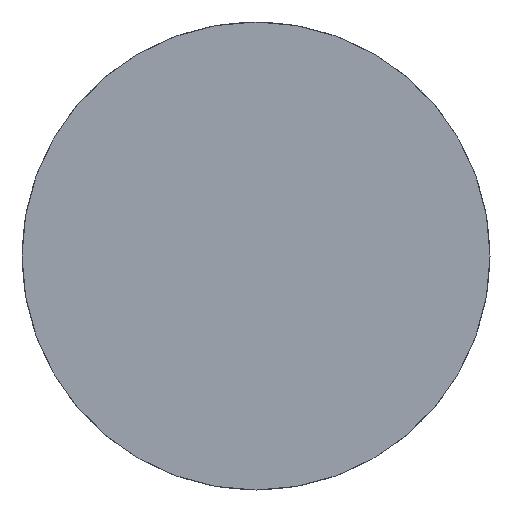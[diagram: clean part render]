
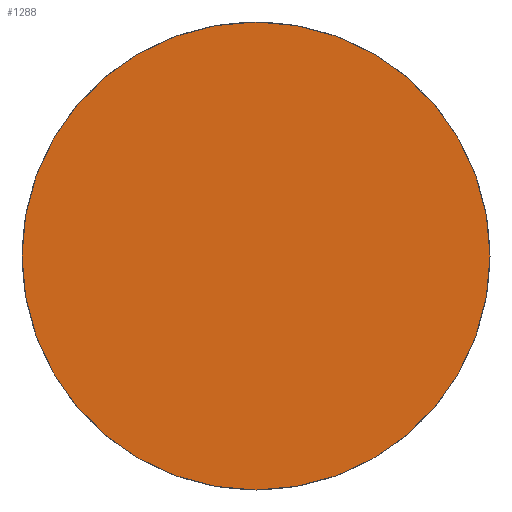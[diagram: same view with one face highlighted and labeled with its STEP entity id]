
A CAD part, left-side view. The second image highlights one B-rep face of the part: STEP entity #1288.
In plain terms, the highlighted planar face has unit normal (-1, 0, 0).
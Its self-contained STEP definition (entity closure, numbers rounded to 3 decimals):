
#1241=CARTESIAN_POINT('',(-512.34,-468.109,15.821));
#1242=VERTEX_POINT('',#1241);
#1249=CARTESIAN_POINT('',(-512.34,-508.109,15.821));
#1250=VERTEX_POINT('',#1249);
#1251=CARTESIAN_POINT('',(-512.34,-488.109,15.821));
#1252=DIRECTION('',(-1.0,0.0,0.0));
#1253=DIRECTION('',(0.0,1.0,0.0));
#1254=AXIS2_PLACEMENT_3D('',#1251,#1252,#1253);
#1255=CIRCLE('',#1254,20.0);
#1256=EDGE_CURVE('',#1250,#1242,#1255,.T.);
#1258=CARTESIAN_POINT('',(-512.34,-488.109,15.821));
#1259=DIRECTION('',(-1.0,0.0,0.0));
#1260=DIRECTION('',(0.0,1.0,0.0));
#1261=AXIS2_PLACEMENT_3D('',#1258,#1259,#1260);
#1262=CIRCLE('',#1261,20.0);
#1263=EDGE_CURVE('',#1242,#1250,#1262,.T.);
#1279=CARTESIAN_POINT('',(-512.34,-512.11,39.821));
#1280=DIRECTION('',(-1.0,0.0,0.0));
#1281=DIRECTION('',(0.0,1.0,0.0));
#1282=AXIS2_PLACEMENT_3D('',#1279,#1280,#1281);
#1283=PLANE('',#1282);
#1284=ORIENTED_EDGE('',*,*,#1263,.T.);
#1285=ORIENTED_EDGE('',*,*,#1256,.T.);
#1286=EDGE_LOOP('',(#1284,#1285));
#1287=FACE_OUTER_BOUND('',#1286,.T.);
#1288=ADVANCED_FACE('',(#1287),#1283,.T.);
